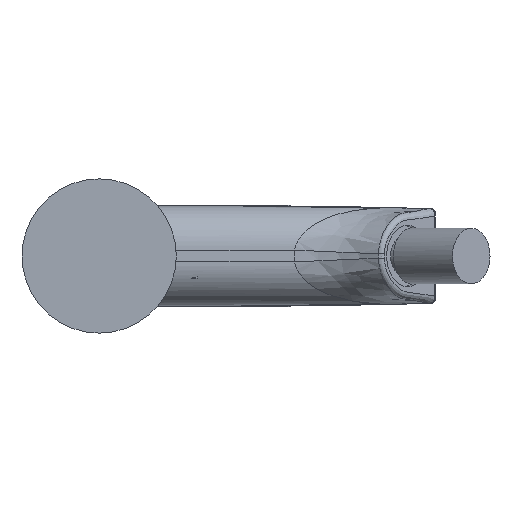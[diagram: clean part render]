
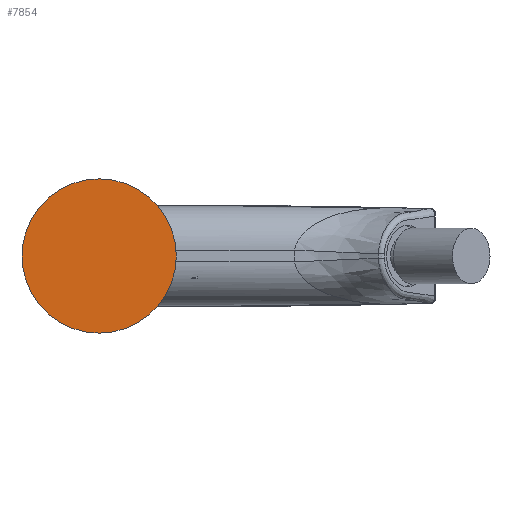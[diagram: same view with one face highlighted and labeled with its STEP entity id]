
A CAD part, front view. The second image highlights one B-rep face of the part: STEP entity #7854.
In plain terms, the highlighted planar face has unit normal (0, -1, 0).
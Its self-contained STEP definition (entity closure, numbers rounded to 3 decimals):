
#533 = AXIS2_PLACEMENT_3D ( 'NONE', #11630, #14113, #13100 ) ;
#2459 = CARTESIAN_POINT ( 'NONE',  ( -49.731, -60.375, 98.56 ) ) ;
#2475 = PLANE ( 'NONE',  #533 ) ;
#2844 = EDGE_LOOP ( 'NONE', ( #7688 ) ) ;
#3337 = FACE_OUTER_BOUND ( 'NONE', #2844, .T. ) ;
#3633 = VERTEX_POINT ( 'NONE', #2459 ) ;
#5803 = CARTESIAN_POINT ( 'NONE',  ( -49.731, -60.375, 123.56 ) ) ;
#6820 = DIRECTION ( 'NONE',  ( 0., -1., 0. ) ) ;
#7688 = ORIENTED_EDGE ( 'NONE', *, *, #9513, .T. ) ;
#7854 = ADVANCED_FACE ( 'NONE', ( #3337 ), #2475, .T. ) ;
#9513 = EDGE_CURVE ( 'NONE', #3633, #3633, #9673, .T. ) ;
#9673 = CIRCLE ( 'NONE', #10173, 25. ) ;
#10173 = AXIS2_PLACEMENT_3D ( 'NONE', #5803, #6820, #11605 ) ;
#11605 = DIRECTION ( 'NONE',  ( 0., 0., -1. ) ) ;
#11630 = CARTESIAN_POINT ( 'NONE',  ( -49.731, -60.375, 123.56 ) ) ;
#13100 = DIRECTION ( 'NONE',  ( 0., 0., -1. ) ) ;
#14113 = DIRECTION ( 'NONE',  ( 0., -1., 0. ) ) ;
